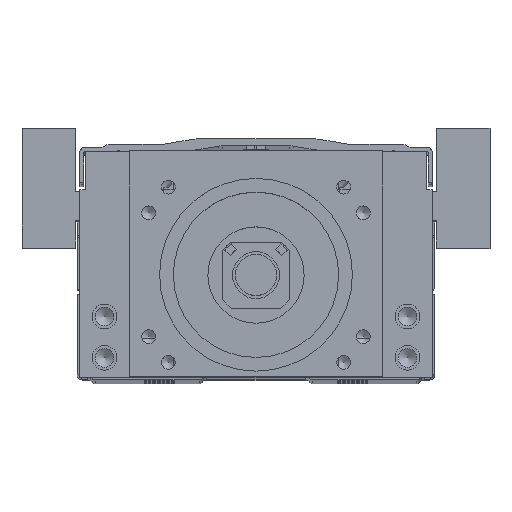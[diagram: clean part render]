
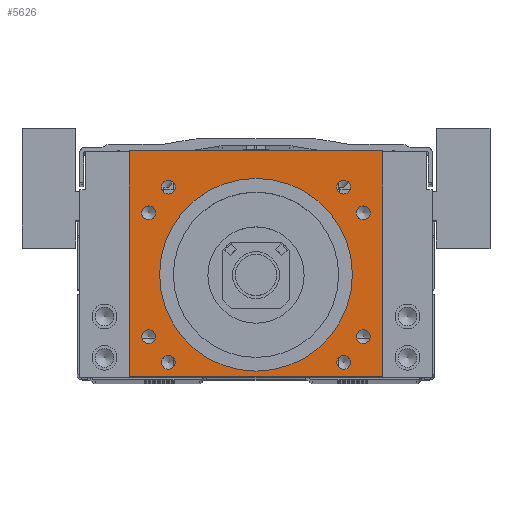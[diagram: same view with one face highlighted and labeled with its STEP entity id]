
A CAD part, top view. The second image highlights one B-rep face of the part: STEP entity #5626.
In plain terms, the highlighted planar face has unit normal (0, 0, 1).
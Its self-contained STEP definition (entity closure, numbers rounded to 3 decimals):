
#1777=FACE_BOUND('',#7954,.T.);
#1778=FACE_BOUND('',#7955,.T.);
#1779=FACE_BOUND('',#7956,.T.);
#1780=FACE_BOUND('',#7957,.T.);
#1781=FACE_BOUND('',#7958,.T.);
#1782=FACE_BOUND('',#7959,.T.);
#1783=FACE_BOUND('',#7960,.T.);
#1784=FACE_BOUND('',#7961,.T.);
#1785=FACE_BOUND('',#7962,.T.);
#1786=FACE_BOUND('',#7963,.T.);
#2443=LINE('',#24483,#3910);
#2867=LINE('',#26026,#4334);
#2872=LINE('',#26034,#4339);
#2877=LINE('',#26043,#4344);
#3910=VECTOR('',#19721,1.);
#4334=VECTOR('',#21001,1.);
#4339=VECTOR('',#21012,1.);
#4344=VECTOR('',#21019,1.);
#5626=ADVANCED_FACE('',(#1777,#1778,#1779,#1780,#1781,#1782,#1783,#1784,
#1785,#1786),#6536,.T.);
#6536=PLANE('',#18511);
#7954=EDGE_LOOP('',(#10292,#10293,#10294,#10295));
#7955=EDGE_LOOP('',(#10296));
#7956=EDGE_LOOP('',(#10297));
#7957=EDGE_LOOP('',(#10298));
#7958=EDGE_LOOP('',(#10299));
#7959=EDGE_LOOP('',(#10300));
#7960=EDGE_LOOP('',(#10301));
#7961=EDGE_LOOP('',(#10302));
#7962=EDGE_LOOP('',(#10303));
#7963=EDGE_LOOP('',(#10304));
#10292=ORIENTED_EDGE('',*,*,#15858,.T.);
#10293=ORIENTED_EDGE('',*,*,#15205,.T.);
#10294=ORIENTED_EDGE('',*,*,#15853,.T.);
#10295=ORIENTED_EDGE('',*,*,#15863,.T.);
#10296=ORIENTED_EDGE('',*,*,#15871,.F.);
#10297=ORIENTED_EDGE('',*,*,#15872,.T.);
#10298=ORIENTED_EDGE('',*,*,#15873,.T.);
#10299=ORIENTED_EDGE('',*,*,#15874,.F.);
#10300=ORIENTED_EDGE('',*,*,#15870,.F.);
#10301=ORIENTED_EDGE('',*,*,#15875,.T.);
#10302=ORIENTED_EDGE('',*,*,#15876,.T.);
#10303=ORIENTED_EDGE('',*,*,#15877,.T.);
#10304=ORIENTED_EDGE('',*,*,#15878,.T.);
#13558=VERTEX_POINT('',#24482);
#13559=VERTEX_POINT('',#24484);
#14030=VERTEX_POINT('',#26024);
#14032=VERTEX_POINT('',#26035);
#14038=VERTEX_POINT('',#26059);
#14039=VERTEX_POINT('',#26062);
#14040=VERTEX_POINT('',#26064);
#14041=VERTEX_POINT('',#26066);
#14042=VERTEX_POINT('',#26068);
#14043=VERTEX_POINT('',#26070);
#14044=VERTEX_POINT('',#26072);
#14045=VERTEX_POINT('',#26074);
#14046=VERTEX_POINT('',#26076);
#15205=EDGE_CURVE('',#13559,#13558,#2443,.T.);
#15853=EDGE_CURVE('',#13558,#14030,#2867,.T.);
#15858=EDGE_CURVE('',#14032,#13559,#2872,.T.);
#15863=EDGE_CURVE('',#14030,#14032,#2877,.T.);
#15870=EDGE_CURVE('',#14038,#14038,#17608,.T.);
#15871=EDGE_CURVE('',#14039,#14039,#17609,.T.);
#15872=EDGE_CURVE('',#14040,#14040,#17610,.T.);
#15873=EDGE_CURVE('',#14041,#14041,#17611,.T.);
#15874=EDGE_CURVE('',#14042,#14042,#17612,.T.);
#15875=EDGE_CURVE('',#14043,#14043,#17613,.T.);
#15876=EDGE_CURVE('',#14044,#14044,#17614,.T.);
#15877=EDGE_CURVE('',#14045,#14045,#17615,.T.);
#15878=EDGE_CURVE('',#14046,#14046,#17616,.T.);
#17608=CIRCLE('',#18501,35.015);
#17609=CIRCLE('',#18503,2.5);
#17610=CIRCLE('',#18504,2.5);
#17611=CIRCLE('',#18505,2.5);
#17612=CIRCLE('',#18506,2.5);
#17613=CIRCLE('',#18507,2.5);
#17614=CIRCLE('',#18508,2.5);
#17615=CIRCLE('',#18509,2.5);
#17616=CIRCLE('',#18510,2.5);
#18501=AXIS2_PLACEMENT_3D('',#26058,#21038,#21039);
#18503=AXIS2_PLACEMENT_3D('',#26061,#21042,#21043);
#18504=AXIS2_PLACEMENT_3D('',#26063,#21044,#21045);
#18505=AXIS2_PLACEMENT_3D('',#26065,#21046,#21047);
#18506=AXIS2_PLACEMENT_3D('',#26067,#21048,#21049);
#18507=AXIS2_PLACEMENT_3D('',#26069,#21050,#21051);
#18508=AXIS2_PLACEMENT_3D('',#26071,#21052,#21053);
#18509=AXIS2_PLACEMENT_3D('',#26073,#21054,#21055);
#18510=AXIS2_PLACEMENT_3D('',#26075,#21056,#21057);
#18511=AXIS2_PLACEMENT_3D('',#26077,#21058,#21059);
#19721=DIRECTION('',(-1.,0.,0.));
#21001=DIRECTION('',(0.,-1.,0.));
#21012=DIRECTION('',(0.,1.,0.));
#21019=DIRECTION('',(1.,0.,0.));
#21038=DIRECTION('',(0.,0.,1.));
#21039=DIRECTION('',(1.,0.,0.));
#21042=DIRECTION('',(0.,0.,1.));
#21043=DIRECTION('',(-1.,0.,0.));
#21044=DIRECTION('',(0.,0.,-1.));
#21045=DIRECTION('',(1.,0.,0.));
#21046=DIRECTION('',(0.,0.,-1.));
#21047=DIRECTION('',(1.,0.,0.));
#21048=DIRECTION('',(0.,0.,1.));
#21049=DIRECTION('',(-1.,0.,0.));
#21050=DIRECTION('',(0.,0.,-1.));
#21051=DIRECTION('',(1.,0.,0.));
#21052=DIRECTION('',(0.,0.,-1.));
#21053=DIRECTION('',(1.,0.,0.));
#21054=DIRECTION('',(0.,0.,-1.));
#21055=DIRECTION('',(1.,0.,0.));
#21056=DIRECTION('',(0.,0.,-1.));
#21057=DIRECTION('',(1.,0.,0.));
#21058=DIRECTION('',(0.,0.,1.));
#21059=DIRECTION('',(1.,0.,0.));
#24482=CARTESIAN_POINT('',(-46.,83.,50.));
#24483=CARTESIAN_POINT('',(0.,83.,50.));
#24484=CARTESIAN_POINT('',(46.,83.,50.));
#26024=CARTESIAN_POINT('',(-46.,1.,50.));
#26026=CARTESIAN_POINT('',(-46.,38.,50.));
#26034=CARTESIAN_POINT('',(46.,38.,50.));
#26035=CARTESIAN_POINT('',(46.,1.,50.));
#26043=CARTESIAN_POINT('',(0.,1.,50.));
#26058=CARTESIAN_POINT('',(0.,38.,50.));
#26059=CARTESIAN_POINT('',(35.015,38.,50.));
#26061=CARTESIAN_POINT('',(-38.971,15.5,50.));
#26062=CARTESIAN_POINT('',(-41.471,15.5,50.));
#26063=CARTESIAN_POINT('',(38.971,60.5,50.));
#26064=CARTESIAN_POINT('',(41.471,60.5,50.));
#26065=CARTESIAN_POINT('',(38.971,15.5,50.));
#26066=CARTESIAN_POINT('',(41.471,15.5,50.));
#26067=CARTESIAN_POINT('',(-38.971,60.5,50.));
#26068=CARTESIAN_POINT('',(-41.471,60.5,50.));
#26069=CARTESIAN_POINT('',(-31.82,69.82,50.));
#26070=CARTESIAN_POINT('',(-29.32,69.82,50.));
#26071=CARTESIAN_POINT('',(-31.82,6.18,50.));
#26072=CARTESIAN_POINT('',(-29.32,6.18,50.));
#26073=CARTESIAN_POINT('',(31.82,6.18,50.));
#26074=CARTESIAN_POINT('',(34.32,6.18,50.));
#26075=CARTESIAN_POINT('',(31.82,69.82,50.));
#26076=CARTESIAN_POINT('',(34.32,69.82,50.));
#26077=CARTESIAN_POINT('',(0.,38.,50.));
